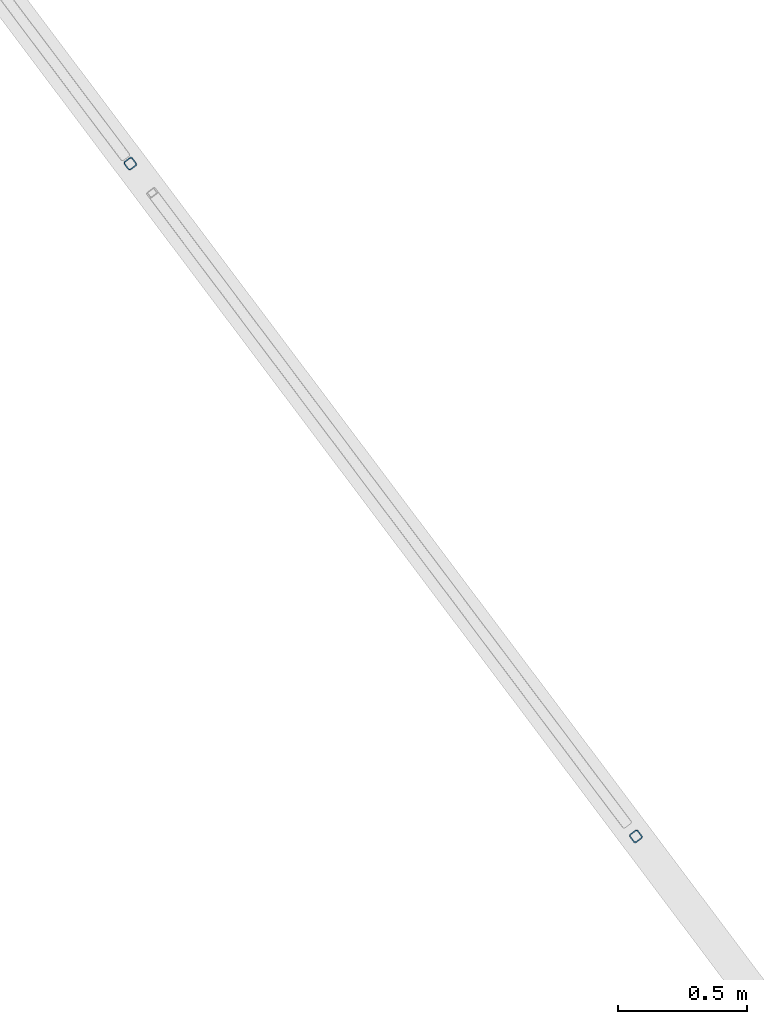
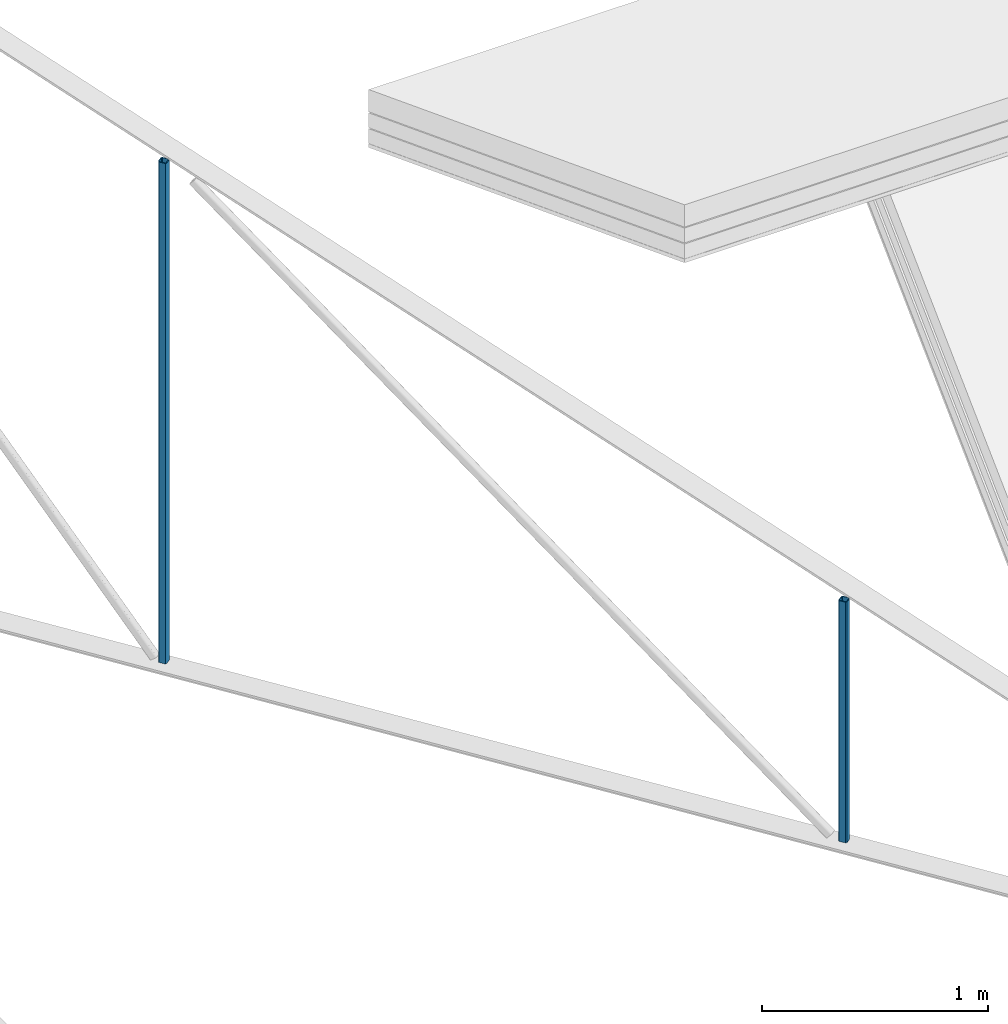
# One storey, part 8 of 15: 2 members, 1 element without a shape of its own.
"""IFC4 building model written with IfcOpenShell, lengths in metres."""

from ifc_helpers import new_model, entity, si_unit, converted_unit, derived_unit, direction, frame, origin, place, context, subcontext, project, spatial, line, arc, indexed_curve, outline, extrude, source, transform, mapped, material, type_object, type_shapes, element, aggregate, save


model = new_model("IFC4")

# Units and contexts
model_context = context("Model", 3, precision=1e-05, world=origin(), true_north=direction((6.123031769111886e-17, 1.0)))
body_context = subcontext(model_context, "Body", "Model", "MODEL_VIEW")
ifc_project = project(units=[si_unit("LENGTHUNIT", "METRE"), si_unit("AREAUNIT", "SQUARE_METRE"), si_unit("VOLUMEUNIT", "CUBIC_METRE"), converted_unit("PLANEANGLEUNIT", "DEGREE", entity("IfcRatioMeasure", 0.017453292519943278), si_unit("PLANEANGLEUNIT", "RADIAN"), dimensions=[0, 0, 0, 0, 0, 0, 0]), si_unit("MASSUNIT", "GRAM", prefix="KILO"), derived_unit("MASSDENSITYUNIT", [(si_unit("MASSUNIT", "GRAM", prefix="KILO"), 1), (si_unit("LENGTHUNIT", "METRE"), -3)]), derived_unit("MOMENTOFINERTIAUNIT", [(si_unit("LENGTHUNIT", "METRE"), 4)]), si_unit("TIMEUNIT", "SECOND"), si_unit("FREQUENCYUNIT", "HERTZ"), si_unit("THERMODYNAMICTEMPERATUREUNIT", "DEGREE_CELSIUS"), derived_unit("THERMALTRANSMITTANCEUNIT", [(si_unit("MASSUNIT", "GRAM", prefix="KILO"), 1), (si_unit("THERMODYNAMICTEMPERATUREUNIT", "KELVIN"), -1), (si_unit("TIMEUNIT", "SECOND"), -3)]), derived_unit("VOLUMETRICFLOWRATEUNIT", [(si_unit("LENGTHUNIT", "METRE"), 3), (si_unit("TIMEUNIT", "SECOND"), -1)]), derived_unit("MASSFLOWRATEUNIT", [(si_unit("MASSUNIT", "GRAM", prefix="KILO"), 1), (si_unit("TIMEUNIT", "SECOND"), -1)]), derived_unit("ROTATIONALFREQUENCYUNIT", [(si_unit("TIMEUNIT", "SECOND"), -1)]), si_unit("ELECTRICCURRENTUNIT", "AMPERE"), si_unit("ELECTRICVOLTAGEUNIT", "VOLT"), si_unit("POWERUNIT", "WATT"), si_unit("FORCEUNIT", "NEWTON", prefix="KILO"), si_unit("ILLUMINANCEUNIT", "LUX"), si_unit("LUMINOUSFLUXUNIT", "LUMEN"), si_unit("LUMINOUSINTENSITYUNIT", "CANDELA"), derived_unit("USERDEFINED", [(si_unit("MASSUNIT", "GRAM", prefix="KILO"), -1), (si_unit("LENGTHUNIT", "METRE"), -2), (si_unit("TIMEUNIT", "SECOND"), 3), (si_unit("LUMINOUSFLUXUNIT", "LUMEN"), 1)]), derived_unit("SOUNDPOWERUNIT", [(si_unit("MASSUNIT", "GRAM", prefix="KILO"), 1), (si_unit("LENGTHUNIT", "METRE"), 2), (si_unit("TIMEUNIT", "SECOND"), -3)]), derived_unit("SOUNDPRESSUREUNIT", [(si_unit("MASSUNIT", "GRAM", prefix="KILO"), 1), (si_unit("LENGTHUNIT", "METRE"), -1), (si_unit("TIMEUNIT", "SECOND"), -2)]), derived_unit("LINEARVELOCITYUNIT", [(si_unit("LENGTHUNIT", "METRE"), 1), (si_unit("TIMEUNIT", "SECOND"), -1)]), si_unit("PRESSUREUNIT", "PASCAL"), derived_unit("USERDEFINED", [(si_unit("LENGTHUNIT", "METRE"), -2), (si_unit("MASSUNIT", "GRAM", prefix="KILO"), 1), (si_unit("TIMEUNIT", "SECOND"), -2)]), derived_unit("LINEARFORCEUNIT", [(si_unit("MASSUNIT", "GRAM", prefix="KILO"), 1), (si_unit("LENGTHUNIT", "METRE"), 1), (si_unit("TIMEUNIT", "SECOND"), -2), (si_unit("LENGTHUNIT", "METRE"), -1)]), derived_unit("PLANARFORCEUNIT", [(si_unit("MASSUNIT", "GRAM", prefix="KILO"), 1), (si_unit("LENGTHUNIT", "METRE"), 1), (si_unit("TIMEUNIT", "SECOND"), -2), (si_unit("LENGTHUNIT", "METRE"), -2)])], contexts=[model_context])

# Site, building, storey
site_placement = place(None, origin())
site = spatial("IfcSite", under=ifc_project, at=site_placement, Name="Superficie", CompositionType="ELEMENT")
building_placement = place(site_placement, origin())
building = spatial("IfcBuilding", under=site, at=building_placement, CompositionType="ELEMENT")
storey_placement = place(building_placement, frame((0.0, 0.0, 7.25)))
storey = spatial("IfcBuildingStorey", under=building, at=storey_placement, Name="Nivel 2", CompositionType="ELEMENT", Elevation=7.25)

# Assembly, members
assembly_placement = place(storey_placement, origin())
assembly = element("IfcElementAssembly", 1, at=assembly_placement, inside=storey, Name="Cercha esquina:Cercha esquina", ObjectType="Cercha esquina:Cercha esquina", AssemblyPlace="NOTDEFINED", PredefinedType="TRUSS")
ifc_material = material(Name="Metal - Acero - 345 MPa", Category="Metal")
member_type_1 = type_object("IfcMemberType", Name="HSS-Sección estructural hueca:HSS41.3X41.3X4.8", PredefinedType="BRACE", material=ifc_material)
shared_shape_1 = source(origin(), body_context, "Body", "SweptSolid", [
    extrude(outline(indexed_curve([(-0.020650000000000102, -0.011809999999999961), (-0.01806082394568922, -0.018060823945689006), (-0.011810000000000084, -0.020649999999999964), (0.011810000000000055, -0.020649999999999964), (0.01806082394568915, -0.01806082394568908), (0.020650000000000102, -0.011809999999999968), (0.020650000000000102, 0.011809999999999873), (0.018060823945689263, 0.018060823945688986), (0.01181000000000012, 0.020649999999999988), (-0.011810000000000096, 0.020649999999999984), (-0.018060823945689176, 0.018060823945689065), (-0.020650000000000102, 0.011810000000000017)], segments=[arc(1, 2, 3), line(3, 4), arc(4, 5, 6), line(6, 7), arc(7, 8, 9), line(9, 10), arc(10, 11, 12), line(12, 1)], self_intersect=False), holes=[indexed_curve([(0.01180999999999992, -0.016230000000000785), (-0.011809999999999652, -0.016230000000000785), (-0.014935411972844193, -0.014935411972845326), (-0.016229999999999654, -0.011810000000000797), (-0.016229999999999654, 0.011809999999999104), (-0.014935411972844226, 0.01493541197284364), (-0.011809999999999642, 0.016229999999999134), (0.011809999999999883, 0.016229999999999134), (0.014935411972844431, 0.014935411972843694), (0.01622999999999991, 0.011809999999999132), (0.01622999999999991, -0.011810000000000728), (0.014935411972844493, -0.014935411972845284)], segments=[line(1, 2), arc(2, 3, 4), line(4, 5), arc(5, 6, 7), line(7, 8), arc(8, 9, 10), line(10, 11), arc(11, 12, 1)], self_intersect=False)]), frame((-0.655, 0.0, 0.0), z_axis=(1.0, 0.0, 0.0), x_axis=(0.0, -1.0, 0.0)), (0.0, 0.0, 1.0), 1.298),
])
type_shapes(member_type_1, [shared_shape_1])
member_1_placement = place(assembly_placement, frame((18.52364874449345, -7.081743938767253, 0.8674882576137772), z_axis=(-0.6008480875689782, 0.7993632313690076, 0.0), x_axis=(0.0, 0.0, 1.0)))
member_1 = element("IfcMember", 2, at=member_1_placement, type_object=member_type_1, material=ifc_material, Name="HSS-Sección estructural hueca:HSS41.3X41.3X4.8", ObjectType="HSS-Sección estructural hueca:HSS41.3X41.3X4.8", PredefinedType="BRACE", context=body_context, shape_type="MappedRepresentation", body=[
    mapped(shared_shape_1, transform((0.0, 0.0, 0.0), scale=1.0)),
])
member_type_2 = type_object("IfcMemberType", Name="HSS-Sección estructural hueca:HSS41.3X41.3X4.8", PredefinedType="BRACE", material=ifc_material)
shared_shape_2 = source(origin(), body_context, "Body", "SweptSolid", [
    extrude(outline(indexed_curve([(0.011809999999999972, -0.020650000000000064), (0.01806082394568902, -0.018060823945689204), (0.020650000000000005, -0.011810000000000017), (0.02064999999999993, 0.011810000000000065), (0.01806082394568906, 0.01806082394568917), (0.0118099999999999, 0.02065000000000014), (-0.011809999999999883, 0.020650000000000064), (-0.018060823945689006, 0.018060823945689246), (-0.020650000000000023, 0.011810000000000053), (-0.020649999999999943, -0.011810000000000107), (-0.018060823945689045, -0.018060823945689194), (-0.011809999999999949, -0.02065000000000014)], segments=[arc(1, 2, 3), line(3, 4), arc(4, 5, 6), line(6, 7), arc(7, 8, 9), line(9, 10), arc(10, 11, 12), line(12, 1)], self_intersect=False), holes=[indexed_curve([(0.016230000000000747, 0.011809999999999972), (0.016230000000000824, -0.0118099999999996), (0.014935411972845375, -0.014935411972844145), (0.01181000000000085, -0.016229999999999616), (-0.011809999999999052, -0.016229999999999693), (-0.014935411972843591, -0.014935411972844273), (-0.016229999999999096, -0.011809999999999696), (-0.016229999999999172, 0.011809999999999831), (-0.014935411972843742, 0.014935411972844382), (-0.011809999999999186, 0.016229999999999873), (0.011810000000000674, 0.01622999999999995), (0.014935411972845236, 0.014935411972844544)], segments=[line(1, 2), arc(2, 3, 4), line(4, 5), arc(5, 6, 7), line(7, 8), arc(8, 9, 10), line(10, 11), arc(11, 12, 1)], self_intersect=False)]), frame((-1.3554999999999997, 0.0, 0.0), z_axis=(1.0, 0.0, 0.0), x_axis=(0.0, 0.0, 1.0)), (0.0, 0.0, 1.0), 2.699),
])
type_shapes(member_type_2, [shared_shape_2])
member_2_placement = place(assembly_placement, frame((16.56049847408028, -4.469985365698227, 1.636759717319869), z_axis=(-0.6008480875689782, 0.7993632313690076, 0.0), x_axis=(0.0, 0.0, 1.0)))
member_2 = element("IfcMember", 3, at=member_2_placement, type_object=member_type_2, material=ifc_material, Name="HSS-Sección estructural hueca:HSS41.3X41.3X4.8", ObjectType="HSS-Sección estructural hueca:HSS41.3X41.3X4.8", PredefinedType="BRACE", context=body_context, shape_type="MappedRepresentation", body=[
    mapped(shared_shape_2, transform((0.0, 0.0, 0.0), scale=1.0)),
])
aggregate(assembly, [member_1, member_2])

save(model, "model.ifc")
